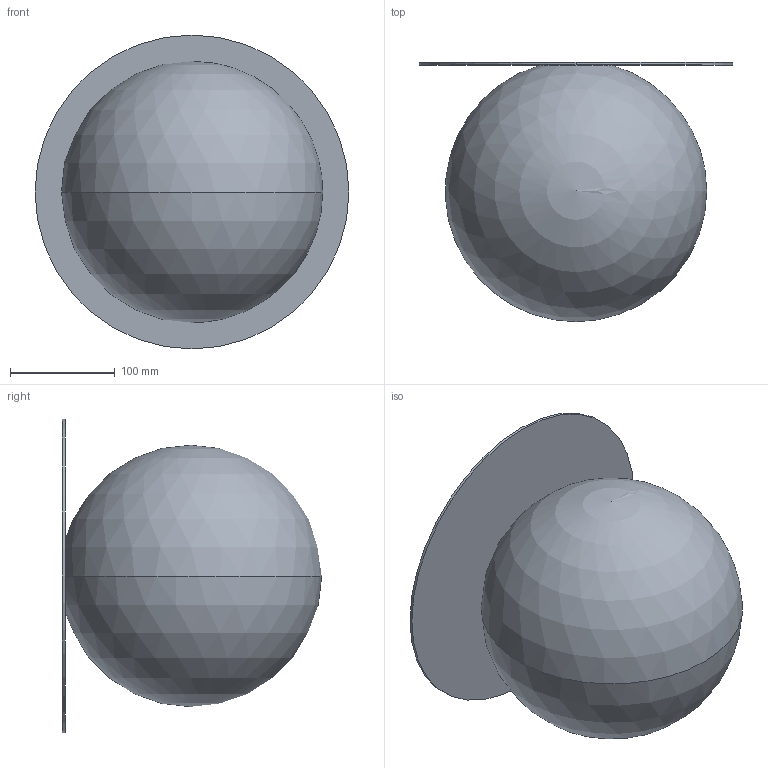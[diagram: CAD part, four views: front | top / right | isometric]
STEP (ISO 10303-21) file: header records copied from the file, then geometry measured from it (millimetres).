
FILE_DESCRIPTION (( 'STEP AP203' ), '1' );
FILE_NAME ('PLKI2501IXXXXXX-PER 3D.STEP', '2025-06-25T07:41:51', ( '' ), ( '' ), 'SwSTEP 2.0', 'SolidWorks 2024', '' );
FILE_SCHEMA (( 'CONFIG_CONTROL_DESIGN' ));
Length unit declared in the file: millimetre
Products named in the file (3): WSCM2C0209-0700-01_WSCM2C0209-0700-01; WSVAXXX0250BC7XX00; PLKI2501IXXXXXX-PER 3D
Assembly tree (2 placements, depth 2):
  PLKI2501IXXXXXX-PER 3D
    WSCM2C0209-0700-01_WSCM2C0209-0700-01
    WSVAXXX0250BC7XX00
Bounding box: 300 x 247.8 x 300 mm (x, y, z)
Volume: 921073.5 mm3; surface area: 517125.3 mm2
Topology: 2 solids, 2 shells, 42 faces, 108 edges, 66 vertices
Faces by surface type: cylinder 22, cone 14, sphere 4, plane 2
Entity records: 1557 total; most frequent: DIRECTION 254, CARTESIAN_POINT 205, ORIENTED_EDGE 196, AXIS2_PLACEMENT_3D 109, EDGE_CURVE 98, CIRCLE 62, VERTEX_POINT 60, EDGE_LOOP 60
